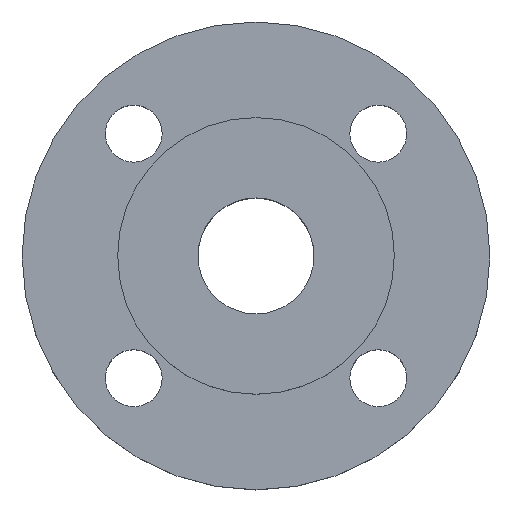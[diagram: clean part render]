
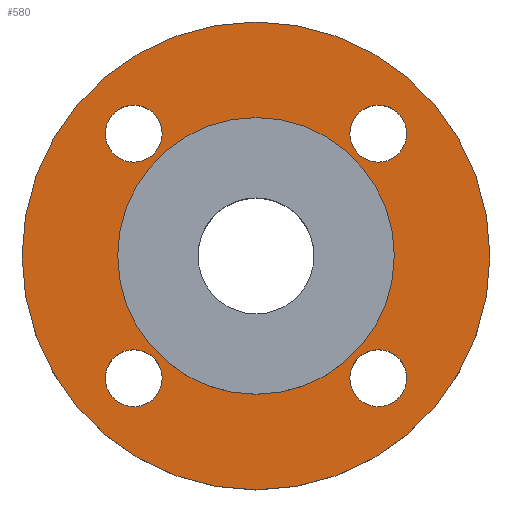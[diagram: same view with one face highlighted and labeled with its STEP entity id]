
A CAD part, top view. The second image highlights one B-rep face of the part: STEP entity #580.
In plain terms, the highlighted planar face has unit normal (0, 0, 1).
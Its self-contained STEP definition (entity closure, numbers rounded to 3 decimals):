
#6 = CIRCLE ( 'NONE', #220, 57.5 ) ;
#9 = CIRCLE ( 'NONE', #225, 23. ) ;
#11 = AXIS2_PLACEMENT_3D ( 'NONE', #484, #751, #620 ) ;
#25 = CARTESIAN_POINT ( 'NONE',  ( 37.052, 30.052, 0. ) ) ;
#26 = CARTESIAN_POINT ( 'NONE',  ( 0., 0., 0. ) ) ;
#33 = CIRCLE ( 'NONE', #145, 7. ) ;
#35 = ORIENTED_EDGE ( 'NONE', *, *, #829, .T. ) ;
#36 = DIRECTION ( 'NONE',  ( 0., 0., 1. ) ) ;
#39 = DIRECTION ( 'NONE',  ( 1., 0., 0. ) ) ;
#42 = ORIENTED_EDGE ( 'NONE', *, *, #814, .T. ) ;
#48 = CIRCLE ( 'NONE', #399, 7. ) ;
#51 = CIRCLE ( 'NONE', #173, 7. ) ;
#64 = CIRCLE ( 'NONE', #65, 7. ) ;
#65 = AXIS2_PLACEMENT_3D ( 'NONE', #253, #256, #258 ) ;
#69 = EDGE_CURVE ( 'NONE', #374, #172, #6, .T. ) ;
#77 = CARTESIAN_POINT ( 'NONE',  ( 30.052, 30.052, 0. ) ) ;
#78 = EDGE_CURVE ( 'NONE', #130, #676, #235, .T. ) ;
#81 = CIRCLE ( 'NONE', #88, 7. ) ;
#82 = FACE_BOUND ( 'NONE', #177, .T. ) ;
#85 = DIRECTION ( 'NONE',  ( 0., 0., -1. ) ) ;
#88 = AXIS2_PLACEMENT_3D ( 'NONE', #825, #571, #308 ) ;
#90 = CARTESIAN_POINT ( 'NONE',  ( -37.052, -30.052, 0. ) ) ;
#111 = EDGE_CURVE ( 'NONE', #447, #267, #64, .T. ) ;
#126 = EDGE_LOOP ( 'NONE', ( #525, #42 ) ) ;
#130 = VERTEX_POINT ( 'NONE', #306 ) ;
#144 = DIRECTION ( 'NONE',  ( 0., 0., -1. ) ) ;
#145 = AXIS2_PLACEMENT_3D ( 'NONE', #613, #864, #548 ) ;
#150 = ORIENTED_EDGE ( 'NONE', *, *, #78, .T. ) ;
#154 = DIRECTION ( 'NONE',  ( -1., 0., 0. ) ) ;
#161 = FACE_BOUND ( 'NONE', #460, .T. ) ;
#163 = DIRECTION ( 'NONE',  ( -1., 0., 0. ) ) ;
#172 = VERTEX_POINT ( 'NONE', #332 ) ;
#173 = AXIS2_PLACEMENT_3D ( 'NONE', #368, #319, #498 ) ;
#177 = EDGE_LOOP ( 'NONE', ( #706, #150 ) ) ;
#190 = DIRECTION ( 'NONE',  ( -1., 0., 0. ) ) ;
#198 = AXIS2_PLACEMENT_3D ( 'NONE', #534, #723, #483 ) ;
#220 = AXIS2_PLACEMENT_3D ( 'NONE', #26, #36, #39 ) ;
#225 = AXIS2_PLACEMENT_3D ( 'NONE', #649, #653, #657 ) ;
#233 = AXIS2_PLACEMENT_3D ( 'NONE', #77, #144, #163 ) ;
#235 = CIRCLE ( 'NONE', #233, 7. ) ;
#253 = CARTESIAN_POINT ( 'NONE',  ( -30.052, 30.052, 0. ) ) ;
#256 = DIRECTION ( 'NONE',  ( 0., 0., -1. ) ) ;
#258 = DIRECTION ( 'NONE',  ( -1., 0., 0. ) ) ;
#259 = VERTEX_POINT ( 'NONE', #428 ) ;
#267 = VERTEX_POINT ( 'NONE', #443 ) ;
#272 = EDGE_LOOP ( 'NONE', ( #811, #35 ) ) ;
#280 = AXIS2_PLACEMENT_3D ( 'NONE', #539, #475, #154 ) ;
#291 = CARTESIAN_POINT ( 'NONE',  ( -23., 0., 0. ) ) ;
#299 = EDGE_LOOP ( 'NONE', ( #757, #589 ) ) ;
#306 = CARTESIAN_POINT ( 'NONE',  ( 23.052, 30.052, 0. ) ) ;
#308 = DIRECTION ( 'NONE',  ( -1., 0., 0. ) ) ;
#319 = DIRECTION ( 'NONE',  ( 0., 0., -1. ) ) ;
#332 = CARTESIAN_POINT ( 'NONE',  ( 57.5, 0., 0. ) ) ;
#333 = EDGE_CURVE ( 'NONE', #172, #374, #705, .T. ) ;
#336 = VERTEX_POINT ( 'NONE', #549 ) ;
#343 = AXIS2_PLACEMENT_3D ( 'NONE', #708, #445, #190 ) ;
#349 = FACE_OUTER_BOUND ( 'NONE', #299, .T. ) ;
#353 = DIRECTION ( 'NONE',  ( -1., 0., 0. ) ) ;
#362 = VERTEX_POINT ( 'NONE', #572 ) ;
#366 = CIRCLE ( 'NONE', #280, 7. ) ;
#368 = CARTESIAN_POINT ( 'NONE',  ( 30.052, 30.052, 0. ) ) ;
#374 = VERTEX_POINT ( 'NONE', #596 ) ;
#396 = CIRCLE ( 'NONE', #343, 7. ) ;
#399 = AXIS2_PLACEMENT_3D ( 'NONE', #424, #85, #353 ) ;
#405 = EDGE_CURVE ( 'NONE', #362, #851, #9, .T. ) ;
#421 = FACE_BOUND ( 'NONE', #272, .T. ) ;
#424 = CARTESIAN_POINT ( 'NONE',  ( -30.052, -30.052, 0. ) ) ;
#428 = CARTESIAN_POINT ( 'NONE',  ( -23.052, -30.052, 0. ) ) ;
#443 = CARTESIAN_POINT ( 'NONE',  ( -37.052, 30.052, 0. ) ) ;
#445 = DIRECTION ( 'NONE',  ( 0., 0., -1. ) ) ;
#447 = VERTEX_POINT ( 'NONE', #610 ) ;
#460 = EDGE_LOOP ( 'NONE', ( #710, #805 ) ) ;
#475 = DIRECTION ( 'NONE',  ( 0., 0., -1. ) ) ;
#483 = DIRECTION ( 'NONE',  ( 1., 0., 0. ) ) ;
#484 = CARTESIAN_POINT ( 'NONE',  ( 0., 0., 0. ) ) ;
#498 = DIRECTION ( 'NONE',  ( -1., 0., 0. ) ) ;
#523 = CARTESIAN_POINT ( 'NONE',  ( 0., 0., 0. ) ) ;
#525 = ORIENTED_EDGE ( 'NONE', *, *, #685, .T. ) ;
#527 = DIRECTION ( 'NONE',  ( 0., 0., 1. ) ) ;
#534 = CARTESIAN_POINT ( 'NONE',  ( 0., 0., 0. ) ) ;
#539 = CARTESIAN_POINT ( 'NONE',  ( -30.052, 30.052, 0. ) ) ;
#546 = DIRECTION ( 'NONE',  ( 1., 0., 0. ) ) ;
#548 = DIRECTION ( 'NONE',  ( -1., 0., 0. ) ) ;
#549 = CARTESIAN_POINT ( 'NONE',  ( 23.052, -30.052, 0. ) ) ;
#556 = EDGE_CURVE ( 'NONE', #267, #447, #366, .T. ) ;
#571 = DIRECTION ( 'NONE',  ( 0., 0., -1. ) ) ;
#572 = CARTESIAN_POINT ( 'NONE',  ( 23., 0., 0. ) ) ;
#580 = ADVANCED_FACE ( 'NONE', ( #421, #748, #161, #82, #682, #349 ), #800, .T. ) ;
#589 = ORIENTED_EDGE ( 'NONE', *, *, #69, .T. ) ;
#596 = CARTESIAN_POINT ( 'NONE',  ( -57.5, 0., 0. ) ) ;
#602 = EDGE_CURVE ( 'NONE', #851, #362, #634, .T. ) ;
#610 = CARTESIAN_POINT ( 'NONE',  ( -23.052, 30.052, 0. ) ) ;
#613 = CARTESIAN_POINT ( 'NONE',  ( 30.052, -30.052, 0. ) ) ;
#620 = DIRECTION ( 'NONE',  ( 1., 0., 0. ) ) ;
#624 = EDGE_CURVE ( 'NONE', #676, #130, #51, .T. ) ;
#628 = VERTEX_POINT ( 'NONE', #90 ) ;
#634 = CIRCLE ( 'NONE', #198, 23. ) ;
#645 = ORIENTED_EDGE ( 'NONE', *, *, #405, .F. ) ;
#648 = CARTESIAN_POINT ( 'NONE',  ( 37.052, -30.052, 0. ) ) ;
#649 = CARTESIAN_POINT ( 'NONE',  ( 0., 0., 0. ) ) ;
#653 = DIRECTION ( 'NONE',  ( 0., 0., 1. ) ) ;
#655 = ORIENTED_EDGE ( 'NONE', *, *, #602, .F. ) ;
#657 = DIRECTION ( 'NONE',  ( 1., 0., 0. ) ) ;
#669 = VERTEX_POINT ( 'NONE', #648 ) ;
#675 = EDGE_CURVE ( 'NONE', #669, #336, #81, .T. ) ;
#676 = VERTEX_POINT ( 'NONE', #25 ) ;
#682 = FACE_BOUND ( 'NONE', #761, .T. ) ;
#685 = EDGE_CURVE ( 'NONE', #259, #628, #396, .T. ) ;
#705 = CIRCLE ( 'NONE', #809, 57.5 ) ;
#706 = ORIENTED_EDGE ( 'NONE', *, *, #624, .T. ) ;
#708 = CARTESIAN_POINT ( 'NONE',  ( -30.052, -30.052, 0. ) ) ;
#710 = ORIENTED_EDGE ( 'NONE', *, *, #111, .T. ) ;
#723 = DIRECTION ( 'NONE',  ( 0., 0., 1. ) ) ;
#748 = FACE_BOUND ( 'NONE', #126, .T. ) ;
#751 = DIRECTION ( 'NONE',  ( 0., 0., 1. ) ) ;
#757 = ORIENTED_EDGE ( 'NONE', *, *, #333, .T. ) ;
#761 = EDGE_LOOP ( 'NONE', ( #645, #655 ) ) ;
#800 = PLANE ( 'NONE',  #11 ) ;
#805 = ORIENTED_EDGE ( 'NONE', *, *, #556, .T. ) ;
#809 = AXIS2_PLACEMENT_3D ( 'NONE', #523, #527, #546 ) ;
#811 = ORIENTED_EDGE ( 'NONE', *, *, #675, .T. ) ;
#814 = EDGE_CURVE ( 'NONE', #628, #259, #48, .T. ) ;
#825 = CARTESIAN_POINT ( 'NONE',  ( 30.052, -30.052, 0. ) ) ;
#829 = EDGE_CURVE ( 'NONE', #336, #669, #33, .T. ) ;
#851 = VERTEX_POINT ( 'NONE', #291 ) ;
#864 = DIRECTION ( 'NONE',  ( 0., 0., -1. ) ) ;
